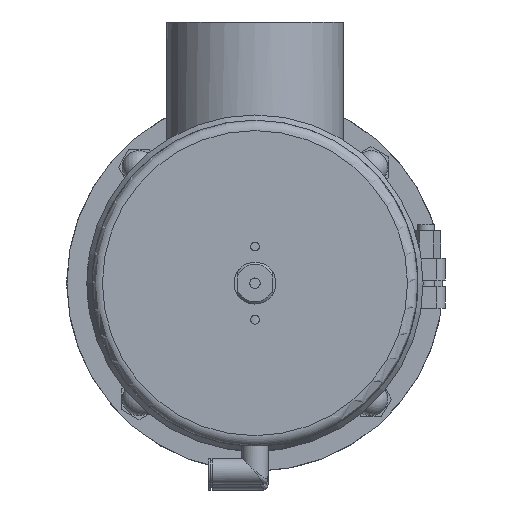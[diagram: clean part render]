
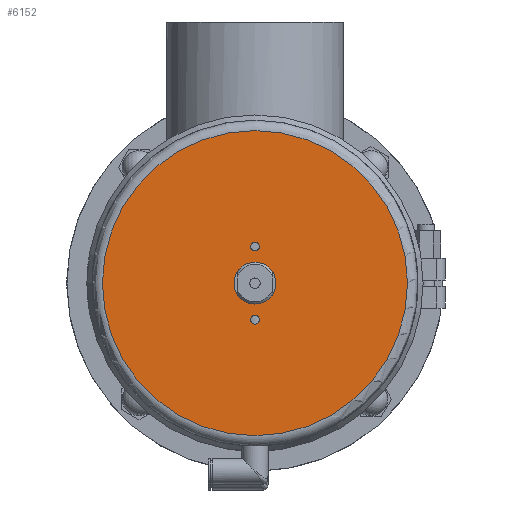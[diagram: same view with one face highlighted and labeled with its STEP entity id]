
A CAD part, front view. The second image highlights one B-rep face of the part: STEP entity #6152.
In plain terms, the highlighted planar face has unit normal (0, -1, 0) as drawn and (0, 1, 0) by its records, which use the part's own axes.
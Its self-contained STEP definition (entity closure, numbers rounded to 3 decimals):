
#1973 = VERTEX_POINT ( 'NONE', #9580 ) ;
#2222 = VERTEX_POINT ( 'NONE', #4201 ) ;
#2844 = CARTESIAN_POINT ( 'NONE',  ( 0., 263., 17.5 ) ) ;
#2967 = DIRECTION ( 'NONE',  ( 0., 1., 0. ) ) ;
#3065 = CARTESIAN_POINT ( 'NONE',  ( 0., 263., 0. ) ) ;
#3431 = CARTESIAN_POINT ( 'NONE',  ( 0., 263., -15.4 ) ) ;
#3535 = FACE_BOUND ( 'NONE', #11739, .T. ) ;
#3841 = CARTESIAN_POINT ( 'NONE',  ( 0., 263., 19.6 ) ) ;
#4201 = CARTESIAN_POINT ( 'NONE',  ( 0., 263., -10. ) ) ;
#4344 = DIRECTION ( 'NONE',  ( 0., -1., 0. ) ) ;
#4484 = EDGE_CURVE ( 'NONE', #15560, #15560, #15065, .T. ) ;
#5535 = FACE_OUTER_BOUND ( 'NONE', #9453, .T. ) ;
#6103 = EDGE_LOOP ( 'NONE', ( #11414 ) ) ;
#6152 = ADVANCED_FACE ( 'NONE', ( #12996, #3535, #5535, #15385 ), #11267, .F. ) ;
#6792 = EDGE_CURVE ( 'NONE', #2222, #2222, #22241, .T. ) ;
#7151 = CIRCLE ( 'NONE', #17096, 2.1 ) ;
#8005 = ORIENTED_EDGE ( 'NONE', *, *, #8241, .T. ) ;
#8011 = AXIS2_PLACEMENT_3D ( 'NONE', #3065, #16275, #10417 ) ;
#8094 = CARTESIAN_POINT ( 'NONE',  ( 0., 263., 0. ) ) ;
#8241 = EDGE_CURVE ( 'NONE', #1973, #1973, #22292, .T. ) ;
#8763 = AXIS2_PLACEMENT_3D ( 'NONE', #11136, #20965, #13115 ) ;
#9453 = EDGE_LOOP ( 'NONE', ( #8005 ) ) ;
#9580 = CARTESIAN_POINT ( 'NONE',  ( 0., 263., -73. ) ) ;
#10417 = DIRECTION ( 'NONE',  ( 0., 0., -1. ) ) ;
#11136 = CARTESIAN_POINT ( 'NONE',  ( -78., 263., 0. ) ) ;
#11267 = PLANE ( 'NONE',  #8763 ) ;
#11414 = ORIENTED_EDGE ( 'NONE', *, *, #6792, .T. ) ;
#11530 = AXIS2_PLACEMENT_3D ( 'NONE', #8094, #4344, #21508 ) ;
#11739 = EDGE_LOOP ( 'NONE', ( #17087 ) ) ;
#12035 = ORIENTED_EDGE ( 'NONE', *, *, #21152, .F. ) ;
#12996 = FACE_BOUND ( 'NONE', #20388, .T. ) ;
#13115 = DIRECTION ( 'NONE',  ( 0., 0., -1. ) ) ;
#15065 = CIRCLE ( 'NONE', #18797, 2.1 ) ;
#15385 = FACE_BOUND ( 'NONE', #6103, .T. ) ;
#15560 = VERTEX_POINT ( 'NONE', #3841 ) ;
#16033 = CARTESIAN_POINT ( 'NONE',  ( 0., 263., -17.5 ) ) ;
#16275 = DIRECTION ( 'NONE',  ( 0., 1., 0. ) ) ;
#17087 = ORIENTED_EDGE ( 'NONE', *, *, #4484, .F. ) ;
#17096 = AXIS2_PLACEMENT_3D ( 'NONE', #16033, #23615, #23738 ) ;
#18265 = VERTEX_POINT ( 'NONE', #3431 ) ;
#18797 = AXIS2_PLACEMENT_3D ( 'NONE', #2844, #2967, #23651 ) ;
#20388 = EDGE_LOOP ( 'NONE', ( #12035 ) ) ;
#20965 = DIRECTION ( 'NONE',  ( 0., -1., 0. ) ) ;
#21152 = EDGE_CURVE ( 'NONE', #18265, #18265, #7151, .T. ) ;
#21508 = DIRECTION ( 'NONE',  ( 0., 0., -1. ) ) ;
#22241 = CIRCLE ( 'NONE', #11530, 10. ) ;
#22292 = CIRCLE ( 'NONE', #8011, 73. ) ;
#23615 = DIRECTION ( 'NONE',  ( 0., 1., 0. ) ) ;
#23651 = DIRECTION ( 'NONE',  ( 0., 0., 1. ) ) ;
#23738 = DIRECTION ( 'NONE',  ( 0., 0., 1. ) ) ;
